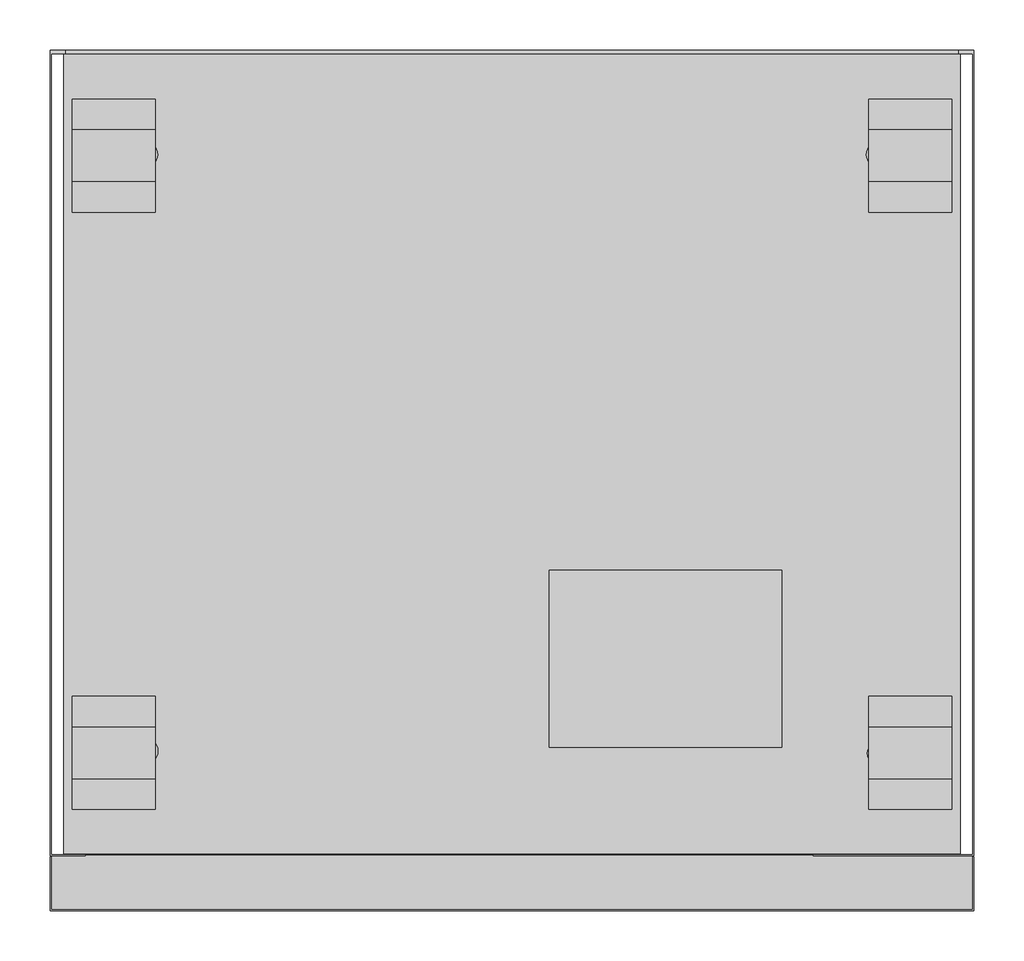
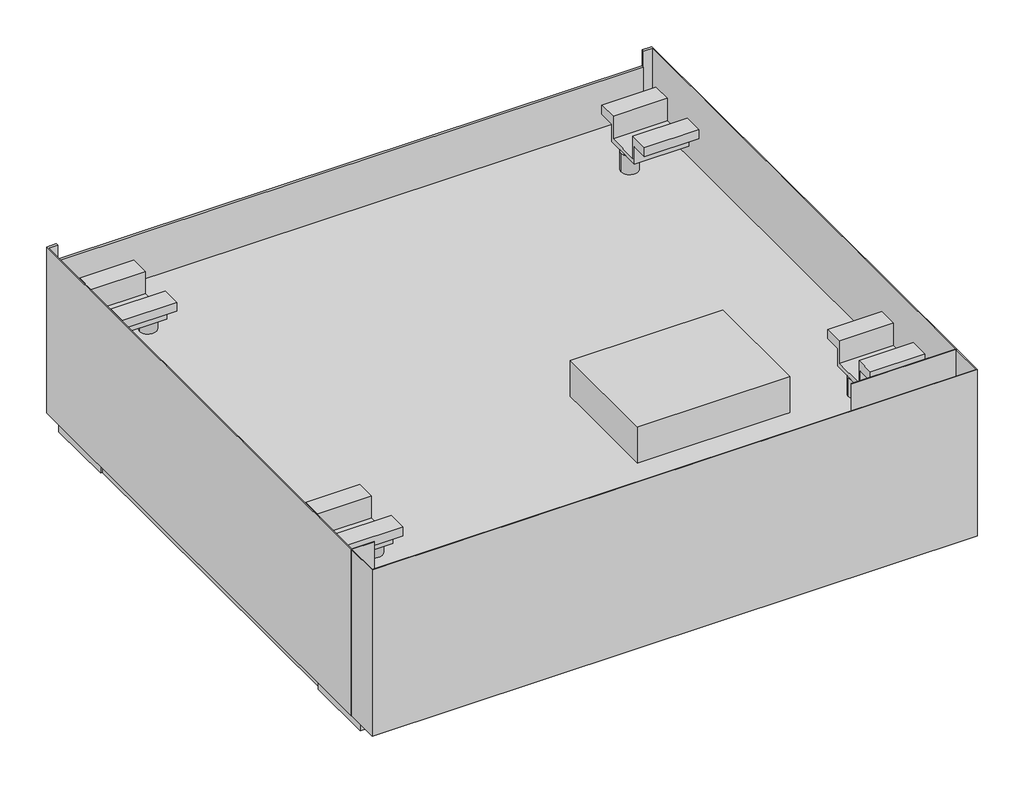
# Not in any storey: 1 proxy.
"""IFC4 building model written with IfcOpenShell, lengths in millimetres."""

from ifc_helpers import new_model, si_unit, origin, place, context, project, spatial, transform, mapped, element, save
from components import specialty_equipment_d2465e60

model = new_model("IFC4")

# Units and contexts
model_context = context("Model", 3, world=origin())
ifc_project = project(units=[si_unit("LENGTHUNIT", "METRE", prefix="MILLI")], contexts=[model_context])

# Site, building
site = spatial("IfcSite", under=ifc_project)
building = spatial("IfcBuilding", under=site)

# Proxy
placement = place(None, origin())
specialty_equipment_shape = specialty_equipment_d2465e60(model_context)
element("IfcBuildingElementProxy", 1, Name="11918240_EU_APWM042_SST : 59510042_EU_11918240_APWM042_SST", ObjectType="11918240_EU_APWM042_SST : 59510042_EU_11918240_APWM042_SST", at=placement, inside=building, context=model_context, shape_type="MappedRepresentation", body=[
    mapped(specialty_equipment_shape, transform((0.0, 0.0, 0.0), x_axis=(1.0, 0.0, 0.0), y_axis=(0.0, 1.0, 0.0), z_axis=(0.0, 0.0, 1.0))),
])

save(model, "model.ifc")
